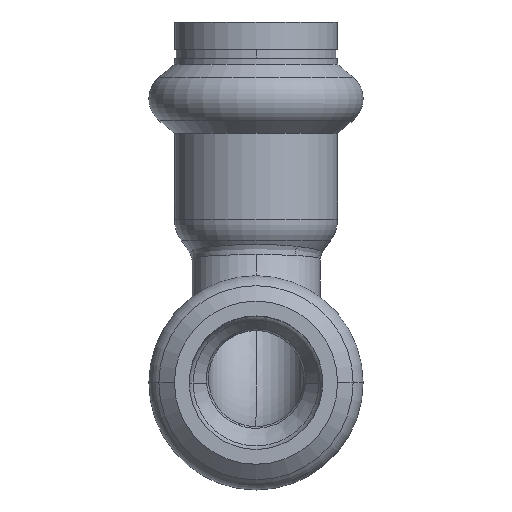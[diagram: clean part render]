
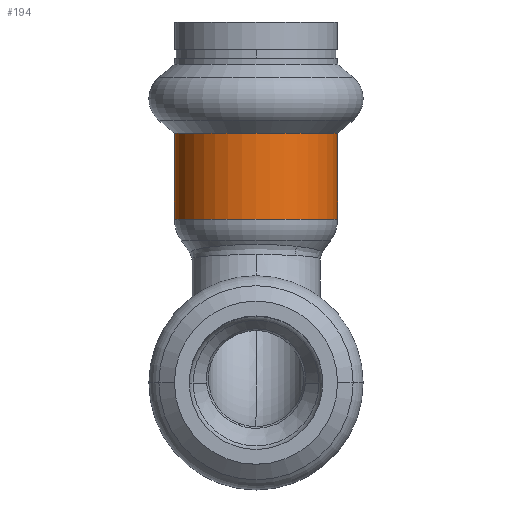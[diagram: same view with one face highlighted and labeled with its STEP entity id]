
A CAD part, top view. The second image highlights one B-rep face of the part: STEP entity #194.
In plain terms, the highlighted cylindrical face has radius 7.45 mm (diameter 14.9 mm), a partial arc.
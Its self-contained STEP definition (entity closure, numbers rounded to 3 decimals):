
#70 = AXIS2_PLACEMENT_3D ( 'NONE', #2299, #2294, #3108 ) ;
#194 = ADVANCED_FACE ( 'NONE', ( #3478 ), #254, .T. ) ;
#254 = CYLINDRICAL_SURFACE ( 'NONE', #3327, 7.45 ) ;
#355 = DIRECTION ( 'NONE',  ( 0., 1., 0. ) ) ;
#362 = CARTESIAN_POINT ( 'NONE',  ( -7.45, 62.626, 0. ) ) ;
#735 = LINE ( 'NONE', #362, #2574 ) ;
#764 = EDGE_CURVE ( 'NONE', #3630, #2809, #3707, .T. ) ;
#1738 = EDGE_CURVE ( 'NONE', #2809, #2606, #735, .T. ) ;
#1775 = ORIENTED_EDGE ( 'NONE', *, *, #764, .F. ) ;
#1793 = AXIS2_PLACEMENT_3D ( 'NONE', #3795, #3765, #3799 ) ;
#1919 = DIRECTION ( 'NONE',  ( 0., 1., 0. ) ) ;
#1928 = DIRECTION ( 'NONE',  ( 1., 0., 0. ) ) ;
#1937 = CARTESIAN_POINT ( 'NONE',  ( 0., 62.626, 0. ) ) ;
#1955 = EDGE_CURVE ( 'NONE', #2606, #3818, #2484, .T. ) ;
#1964 = CARTESIAN_POINT ( 'NONE',  ( -7.45, 15., 0. ) ) ;
#1974 = CARTESIAN_POINT ( 'NONE',  ( 7.45, 15., 0. ) ) ;
#1996 = DIRECTION ( 'NONE',  ( 0., 1., 0. ) ) ;
#2149 = EDGE_LOOP ( 'NONE', ( #3573, #1775, #2605, #3143 ) ) ;
#2294 = DIRECTION ( 'NONE',  ( 0., -1., 0. ) ) ;
#2299 = CARTESIAN_POINT ( 'NONE',  ( 0., 15., 0. ) ) ;
#2484 = CIRCLE ( 'NONE', #1793, 7.45 ) ;
#2529 = CARTESIAN_POINT ( 'NONE',  ( 7.45, 62.626, 0. ) ) ;
#2574 = VECTOR ( 'NONE', #355, 1000. ) ;
#2605 = ORIENTED_EDGE ( 'NONE', *, *, #2786, .T. ) ;
#2606 = VERTEX_POINT ( 'NONE', #3159 ) ;
#2786 = EDGE_CURVE ( 'NONE', #3630, #3818, #3307, .T. ) ;
#2809 = VERTEX_POINT ( 'NONE', #1964 ) ;
#3038 = CARTESIAN_POINT ( 'NONE',  ( 7.45, 22.838, 0. ) ) ;
#3108 = DIRECTION ( 'NONE',  ( 1., 0., 0. ) ) ;
#3143 = ORIENTED_EDGE ( 'NONE', *, *, #1955, .F. ) ;
#3159 = CARTESIAN_POINT ( 'NONE',  ( -7.45, 22.838, 0. ) ) ;
#3262 = VECTOR ( 'NONE', #1996, 1000. ) ;
#3307 = LINE ( 'NONE', #2529, #3262 ) ;
#3327 = AXIS2_PLACEMENT_3D ( 'NONE', #1937, #1919, #1928 ) ;
#3478 = FACE_OUTER_BOUND ( 'NONE', #2149, .T. ) ;
#3573 = ORIENTED_EDGE ( 'NONE', *, *, #1738, .F. ) ;
#3630 = VERTEX_POINT ( 'NONE', #1974 ) ;
#3707 = CIRCLE ( 'NONE', #70, 7.45 ) ;
#3765 = DIRECTION ( 'NONE',  ( 0., 1., 0. ) ) ;
#3795 = CARTESIAN_POINT ( 'NONE',  ( 0., 22.838, 0. ) ) ;
#3799 = DIRECTION ( 'NONE',  ( 0., 0., 1. ) ) ;
#3818 = VERTEX_POINT ( 'NONE', #3038 ) ;
